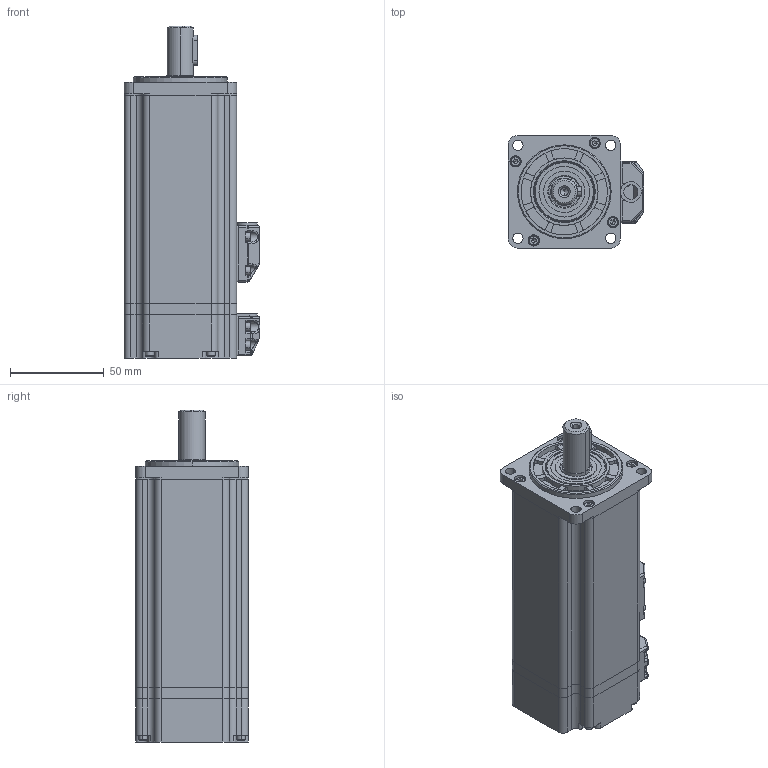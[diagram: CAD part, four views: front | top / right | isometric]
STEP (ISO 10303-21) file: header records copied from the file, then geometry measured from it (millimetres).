
FILE_DESCRIPTION (( 'STEP AP203' ), '1' );
FILE_NAME ('淕儂蚾饜.STEP', '2019-11-01T09:38:23', ( 'admin' ), ( '' ), 'SwSTEP 2.0', 'SolidWorks 2016', '' );
FILE_SCHEMA (( 'CONFIG_CONTROL_DESIGN' ));
Length unit declared in the file: millimetre
Products named in the file (1): 淕儂蚾饜
Bounding box: 72.5 x 60 x 177 mm (x, y, z)
Volume: 184691.3 mm3; surface area: 115719.9 mm2
Topology: 29 solids, 29 shells, 1558 faces, 3895 edges, 2405 vertices
Faces by surface type: cylinder 681, plane 604, cone 171, torus 40, sphere 38, bspline 24
Entity records: 49038 total; most frequent: CARTESIAN_POINT 11085, DIRECTION 8417, ORIENTED_EDGE 7614, EDGE_CURVE 3807, AXIS2_PLACEMENT_3D 3229, VERTEX_POINT 2405, VECTOR 1959, LINE 1959
